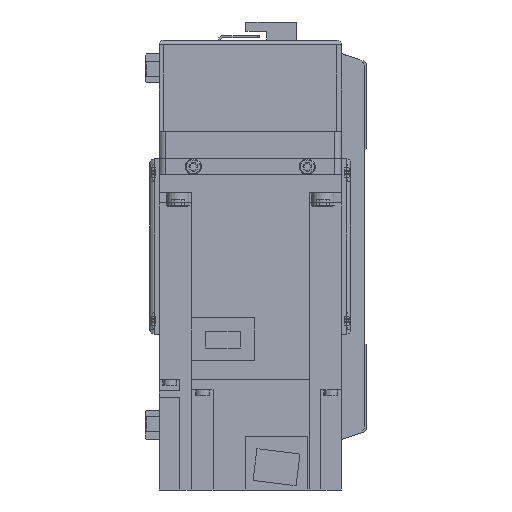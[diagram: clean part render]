
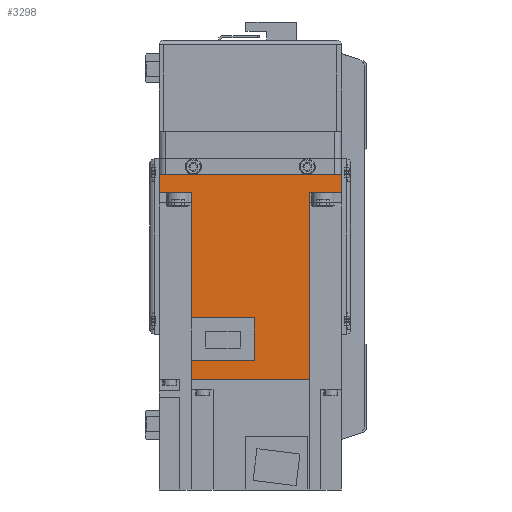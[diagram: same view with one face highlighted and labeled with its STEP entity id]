
A CAD part, left-side view. The second image highlights one B-rep face of the part: STEP entity #3298.
In plain terms, the highlighted planar face has unit normal (-1, 0, 0) as drawn and (1, 0, 0) by its records, which use the part's own axes.
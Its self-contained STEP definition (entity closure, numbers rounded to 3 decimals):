
#3298 = ADVANCED_FACE( '', ( #6947 ), #6948, .F. );
#6947 = FACE_OUTER_BOUND( '', #10689, .T. );
#6948 = PLANE( '', #10690 );
#10689 = EDGE_LOOP( '', ( #19950, #19951, #19952, #19953, #19954, #19955, #19956, #19957, #19958, #19959, #19960, #19961 ) );
#10690 = AXIS2_PLACEMENT_3D( '', #19962, #19963, #19964 );
#19950 = ORIENTED_EDGE( '', *, *, #24316, .F. );
#19951 = ORIENTED_EDGE( '', *, *, #23712, .F. );
#19952 = ORIENTED_EDGE( '', *, *, #24413, .F. );
#19953 = ORIENTED_EDGE( '', *, *, #23175, .T. );
#19954 = ORIENTED_EDGE( '', *, *, #24542, .F. );
#19955 = ORIENTED_EDGE( '', *, *, #24030, .T. );
#19956 = ORIENTED_EDGE( '', *, *, #24105, .T. );
#19957 = ORIENTED_EDGE( '', *, *, #21075, .F. );
#19958 = ORIENTED_EDGE( '', *, *, #21018, .F. );
#19959 = ORIENTED_EDGE( '', *, *, #23714, .F. );
#19960 = ORIENTED_EDGE( '', *, *, #22131, .F. );
#19961 = ORIENTED_EDGE( '', *, *, #24040, .F. );
#19962 = CARTESIAN_POINT( '', ( 40., 89.8, 40. ) );
#19963 = DIRECTION( '', ( -1., 0., 0. ) );
#19964 = DIRECTION( '', ( 0., 0., 1. ) );
#21018 = EDGE_CURVE( '', #24915, #24916, #24917, .T. );
#21075 = EDGE_CURVE( '', #24916, #25014, #25015, .T. );
#22131 = EDGE_CURVE( '', #26833, #26834, #26835, .T. );
#23175 = EDGE_CURVE( '', #28459, #28457, #28460, .T. );
#23712 = EDGE_CURVE( '', #29211, #29213, #29214, .T. );
#23714 = EDGE_CURVE( '', #26834, #24915, #29216, .T. );
#24030 = EDGE_CURVE( '', #29625, #29623, #29626, .T. );
#24040 = EDGE_CURVE( '', #29637, #26833, #29638, .T. );
#24105 = EDGE_CURVE( '', #29623, #25014, #29720, .T. );
#24316 = EDGE_CURVE( '', #29213, #29637, #29971, .T. );
#24413 = EDGE_CURVE( '', #28459, #29211, #30083, .T. );
#24542 = EDGE_CURVE( '', #29625, #28457, #30222, .T. );
#24915 = VERTEX_POINT( '', #30710 );
#24916 = VERTEX_POINT( '', #30711 );
#24917 = LINE( '', #30712, #30713 );
#25014 = VERTEX_POINT( '', #30881 );
#25015 = LINE( '', #30882, #30883 );
#26833 = VERTEX_POINT( '', #33519 );
#26834 = VERTEX_POINT( '', #33520 );
#26835 = LINE( '', #33521, #33522 );
#28457 = VERTEX_POINT( '', #36215 );
#28459 = VERTEX_POINT( '', #36218 );
#28460 = LINE( '', #36219, #36220 );
#29211 = VERTEX_POINT( '', #37471 );
#29213 = VERTEX_POINT( '', #37474 );
#29214 = LINE( '', #37475, #37476 );
#29216 = LINE( '', #37479, #37480 );
#29623 = VERTEX_POINT( '', #38212 );
#29625 = VERTEX_POINT( '', #38215 );
#29626 = LINE( '', #38216, #38217 );
#29637 = VERTEX_POINT( '', #38231 );
#29638 = LINE( '', #38232, #38233 );
#29720 = LINE( '', #38382, #38383 );
#29971 = LINE( '', #38759, #38760 );
#30083 = LINE( '', #38917, #38918 );
#30222 = LINE( '', #39105, #39106 );
#30710 = CARTESIAN_POINT( '', ( 40., 8., -25.95 ) );
#30711 = CARTESIAN_POINT( '', ( 40., 8., -40. ) );
#30712 = CARTESIAN_POINT( '', ( 40., 8., 40. ) );
#30713 = VECTOR( '', #39443, 1000. );
#30881 = CARTESIAN_POINT( '', ( 40., 0., -40. ) );
#30882 = CARTESIAN_POINT( '', ( 40., 89.8, -40. ) );
#30883 = VECTOR( '', #39523, 1000. );
#33519 = CARTESIAN_POINT( '', ( 40., 62.8, 1.8 ) );
#33520 = CARTESIAN_POINT( '', ( 40., 62.8, -25.95 ) );
#33521 = CARTESIAN_POINT( '', ( 40., 62.8, 1.8 ) );
#33522 = VECTOR( '', #40891, 1000. );
#36215 = CARTESIAN_POINT( '', ( 40., 8., 25.95 ) );
#36218 = CARTESIAN_POINT( '', ( 40., 89.8, 25.95 ) );
#36219 = CARTESIAN_POINT( '', ( 40., 158., 25.95 ) );
#36220 = VECTOR( '', #42219, 1000. );
#37471 = CARTESIAN_POINT( '', ( 40., 89.8, -25.95 ) );
#37474 = CARTESIAN_POINT( '', ( 40., 81.4, -25.95 ) );
#37475 = CARTESIAN_POINT( '', ( 40., 158., -25.95 ) );
#37476 = VECTOR( '', #42886, 1000. );
#37479 = CARTESIAN_POINT( '', ( 40., 158., -25.95 ) );
#37480 = VECTOR( '', #42888, 1000. );
#38212 = CARTESIAN_POINT( '', ( 40., 0., 40. ) );
#38215 = CARTESIAN_POINT( '', ( 40., 8., 40. ) );
#38216 = CARTESIAN_POINT( '', ( 40., 89.8, 40. ) );
#38217 = VECTOR( '', #43196, 1000. );
#38231 = CARTESIAN_POINT( '', ( 40., 81.4, 1.8 ) );
#38232 = CARTESIAN_POINT( '', ( 40., 81.4, 1.8 ) );
#38233 = VECTOR( '', #43203, 1000. );
#38382 = CARTESIAN_POINT( '', ( 40., 0., 40. ) );
#38383 = VECTOR( '', #43257, 1000. );
#38759 = CARTESIAN_POINT( '', ( 40., 81.4, -26. ) );
#38760 = VECTOR( '', #43434, 1000. );
#38917 = CARTESIAN_POINT( '', ( 40., 89.8, 40. ) );
#38918 = VECTOR( '', #43500, 1000. );
#39105 = CARTESIAN_POINT( '', ( 40., 8., 40. ) );
#39106 = VECTOR( '', #43596, 1000. );
#39443 = DIRECTION( '', ( 0., 0., -1. ) );
#39523 = DIRECTION( '', ( 0., -1., 0. ) );
#40891 = DIRECTION( '', ( 0., 0., -1. ) );
#42219 = DIRECTION( '', ( 0., -1., 0. ) );
#42886 = DIRECTION( '', ( 0., -1., 0. ) );
#42888 = DIRECTION( '', ( 0., -1., 0. ) );
#43196 = DIRECTION( '', ( 0., -1., 0. ) );
#43203 = DIRECTION( '', ( 0., -1., 0. ) );
#43257 = DIRECTION( '', ( 0., 0., -1. ) );
#43434 = DIRECTION( '', ( 0., 0., 1. ) );
#43500 = DIRECTION( '', ( 0., 0., -1. ) );
#43596 = DIRECTION( '', ( 0., 0., -1. ) );
